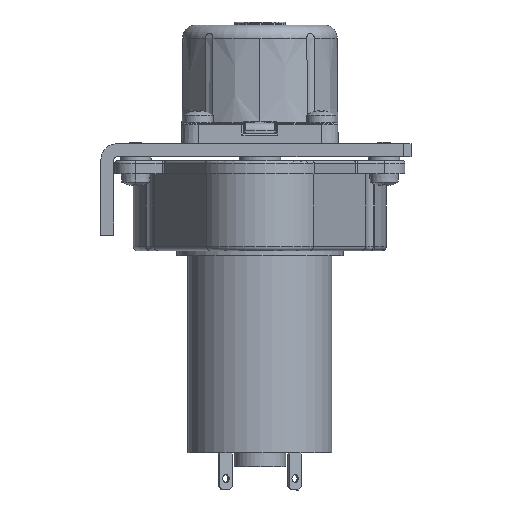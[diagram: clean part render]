
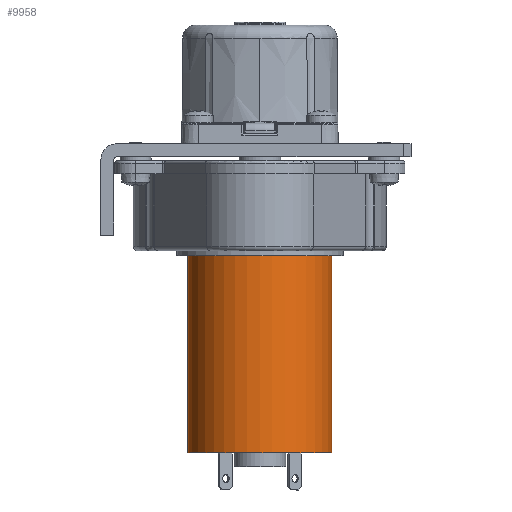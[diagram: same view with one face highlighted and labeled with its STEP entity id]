
A CAD part, front view. The second image highlights one B-rep face of the part: STEP entity #9958.
In plain terms, the highlighted cylindrical face has radius 13.8 mm (diameter 27.6 mm), a partial arc.
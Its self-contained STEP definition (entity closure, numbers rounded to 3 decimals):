
#525 = CARTESIAN_POINT ( 'NONE',  ( 75.269, 72.855, -1.95 ) ) ;
#582 = DIRECTION ( 'NONE',  ( 1., 0., 0. ) ) ;
#1200 = CIRCLE ( 'NONE', #5915, 13.8 ) ;
#1511 = EDGE_CURVE ( 'NONE', #7027, #26767, #1200, .T. ) ;
#1818 = DIRECTION ( 'NONE',  ( 0., 0., 1. ) ) ;
#2688 = EDGE_LOOP ( 'NONE', ( #34092, #26108, #3472, #9285 ) ) ;
#3472 = ORIENTED_EDGE ( 'NONE', *, *, #1511, .T. ) ;
#5428 = CARTESIAN_POINT ( 'NONE',  ( 61.469, 72.855, -1.95 ) ) ;
#5455 = VECTOR ( 'NONE', #18503, 1000. ) ;
#5915 = AXIS2_PLACEMENT_3D ( 'NONE', #33535, #22246, #582 ) ;
#7027 = VERTEX_POINT ( 'NONE', #5428 ) ;
#7711 = VERTEX_POINT ( 'NONE', #30718 ) ;
#8251 = CARTESIAN_POINT ( 'NONE',  ( 61.469, 72.855, -1.95 ) ) ;
#8718 = EDGE_CURVE ( 'NONE', #7711, #32122, #33162, .T. ) ;
#8850 = CYLINDRICAL_SURFACE ( 'NONE', #30399, 13.8 ) ;
#8930 = EDGE_CURVE ( 'NONE', #32122, #7027, #14402, .T. ) ;
#9285 = ORIENTED_EDGE ( 'NONE', *, *, #32902, .F. ) ;
#9958 = ADVANCED_FACE ( 'NONE', ( #21618 ), #8850, .T. ) ;
#10523 = AXIS2_PLACEMENT_3D ( 'NONE', #26104, #15285, #28805 ) ;
#12370 = CARTESIAN_POINT ( 'NONE',  ( 89.069, 72.855, -1.95 ) ) ;
#14285 = CARTESIAN_POINT ( 'NONE',  ( 61.469, 72.855, -39.75 ) ) ;
#14402 = LINE ( 'NONE', #8251, #14852 ) ;
#14852 = VECTOR ( 'NONE', #16572, 1000. ) ;
#15285 = DIRECTION ( 'NONE',  ( 0., 0., 1. ) ) ;
#15420 = DIRECTION ( 'NONE',  ( 1., 0., 0. ) ) ;
#16572 = DIRECTION ( 'NONE',  ( 0., 0., 1. ) ) ;
#18503 = DIRECTION ( 'NONE',  ( 0., 0., 1. ) ) ;
#21618 = FACE_OUTER_BOUND ( 'NONE', #2688, .T. ) ;
#22246 = DIRECTION ( 'NONE',  ( 0., 0., -1. ) ) ;
#25002 = LINE ( 'NONE', #29325, #5455 ) ;
#26104 = CARTESIAN_POINT ( 'NONE',  ( 75.269, 72.855, -39.75 ) ) ;
#26108 = ORIENTED_EDGE ( 'NONE', *, *, #8930, .T. ) ;
#26767 = VERTEX_POINT ( 'NONE', #12370 ) ;
#28805 = DIRECTION ( 'NONE',  ( 1., 0., 0. ) ) ;
#29325 = CARTESIAN_POINT ( 'NONE',  ( 89.069, 72.855, -1.95 ) ) ;
#30399 = AXIS2_PLACEMENT_3D ( 'NONE', #525, #1818, #15420 ) ;
#30718 = CARTESIAN_POINT ( 'NONE',  ( 89.069, 72.855, -39.75 ) ) ;
#32122 = VERTEX_POINT ( 'NONE', #14285 ) ;
#32902 = EDGE_CURVE ( 'NONE', #7711, #26767, #25002, .T. ) ;
#33162 = CIRCLE ( 'NONE', #10523, 13.8 ) ;
#33535 = CARTESIAN_POINT ( 'NONE',  ( 75.269, 72.855, -1.95 ) ) ;
#34092 = ORIENTED_EDGE ( 'NONE', *, *, #8718, .T. ) ;
